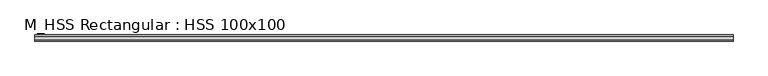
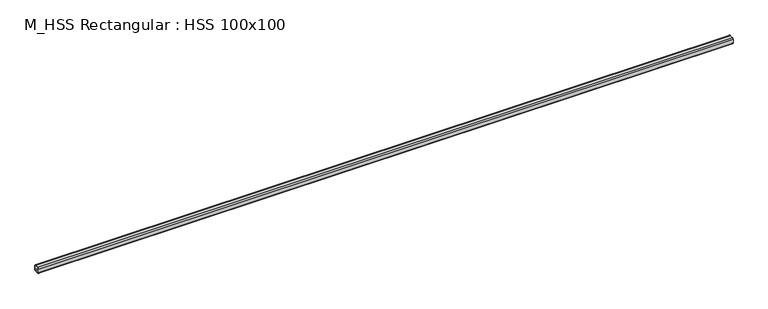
"""IFC4 building model written with IfcOpenShell, lengths in millimetres: beam geometry, M_HSS Rectangular : HSS 100x100."""

from ifc_helpers import new_model, si_unit, point, frame, frame_2d, origin, place, context, project, spatial, polyline, circle_curve, trimmed, segment, composite_curve, outline, extrude, source, transform, mapped, element, save


def m_hss_rectangular_hss_100x100_b34a554f(model_context):
    return source(origin(), model_context, "Body", "SweptSolid", [
        extrude(outline(composite_curve([segment(polyline([(50.0, 30.94), (50.0, -30.94)]), True, "CONTINUOUS"), segment(trimmed(circle_curve(frame_2d((30.94, -30.94)), 19.06), [point((50.0, -30.94))], [point((30.94, -50.0))], False, "CARTESIAN"), True, "CONTINUOUS"), segment(polyline([(30.94, -50.0), (-30.94, -50.0)]), True, "CONTINUOUS"), segment(trimmed(circle_curve(frame_2d((-30.94, -30.94)), 19.06), [point((-30.94, -50.0))], [point((-50.0, -30.94))], False, "CARTESIAN"), True, "CONTINUOUS"), segment(polyline([(-50.0, -30.94), (-50.0, 30.94)]), True, "CONTINUOUS"), segment(trimmed(circle_curve(frame_2d((-30.94, 30.94)), 19.06), [point((-50.0, 30.94))], [point((-30.94, 50.0))], False, "CARTESIAN"), True, "CONTINUOUS"), segment(polyline([(-30.94, 50.0), (30.94, 50.0)]), True, "CONTINUOUS"), segment(trimmed(circle_curve(frame_2d((30.94, 30.94)), 19.06), [point((30.94, 50.0))], [point((50.0, 30.94))], False, "CARTESIAN"), True, "CONTINUOUS")], self_intersect=False), holes=[composite_curve([segment(trimmed(circle_curve(frame_2d((-30.94, 30.94)), 9.53), [point((-30.94, 40.47))], [point((-40.47, 30.94))], True, "CARTESIAN"), True, "CONTINUOUS"), segment(polyline([(-40.47, 30.94), (-40.47, -30.94)]), True, "CONTINUOUS"), segment(trimmed(circle_curve(frame_2d((-30.94, -30.94)), 9.53), [point((-40.47, -30.94))], [point((-30.94, -40.47))], True, "CARTESIAN"), True, "CONTINUOUS"), segment(polyline([(-30.94, -40.47), (30.94, -40.47)]), True, "CONTINUOUS"), segment(trimmed(circle_curve(frame_2d((30.94, -30.94)), 9.53), [point((30.94, -40.47))], [point((40.47, -30.94))], True, "CARTESIAN"), True, "CONTINUOUS"), segment(polyline([(40.47, -30.94), (40.47, 30.94)]), True, "CONTINUOUS"), segment(trimmed(circle_curve(frame_2d((30.94, 30.94)), 9.53), [point((40.47, 30.94))], [point((30.94, 40.47))], True, "CARTESIAN"), True, "CONTINUOUS"), segment(polyline([(30.94, 40.47), (-30.94, 40.47)]), True, "CONTINUOUS")], self_intersect=False)]), frame((-5687.0, 0.0, 0.0), z_axis=(1.0, 0.0, 0.0), x_axis=(0.0, 1.0, 0.0)), (0.0, 0.0, 1.0), 11411.7),
    ])


if __name__ == "__main__":
    model = new_model("IFC4")
    model_context = context("Model", 3, world=origin())
    ifc_project = project(units=[si_unit("LENGTHUNIT", "METRE", prefix="MILLI")], contexts=[model_context])
    site = spatial("IfcSite", under=ifc_project)
    building = spatial("IfcBuilding", under=site)
    placement = place(None, origin())
    m_hss_rectangular_hss_100x100_shape = m_hss_rectangular_hss_100x100_b34a554f(model_context)
    element("IfcBeam", 1, ObjectType="M_HSS Rectangular : HSS 100x100", at=placement, inside=building, context=model_context, shape_type="MappedRepresentation", body=[
        mapped(m_hss_rectangular_hss_100x100_shape, transform((0.0, 0.0, 0.0), x_axis=(1.0, 0.0, 0.0), y_axis=(0.0, 1.0, 0.0), z_axis=(0.0, 0.0, 1.0))),
    ])
    save(model, "model.ifc")
